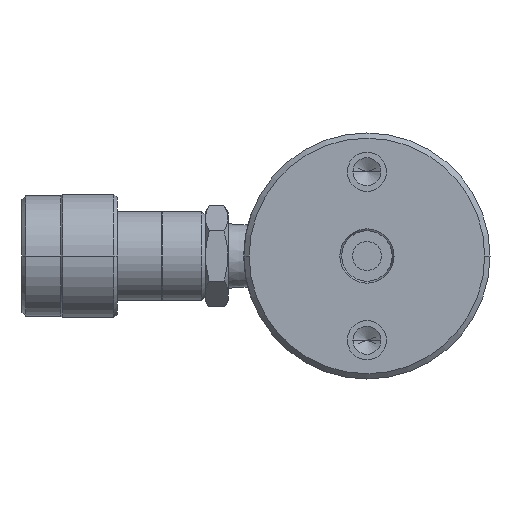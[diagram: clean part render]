
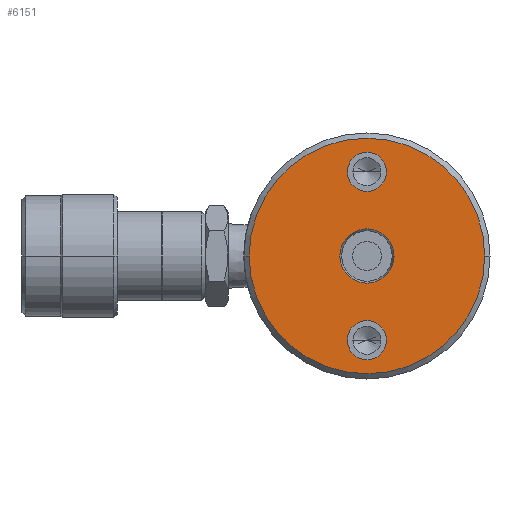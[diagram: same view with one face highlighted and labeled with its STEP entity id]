
A CAD part, front view. The second image highlights one B-rep face of the part: STEP entity #6151.
In plain terms, the highlighted planar face has unit normal (0, -1, 0).
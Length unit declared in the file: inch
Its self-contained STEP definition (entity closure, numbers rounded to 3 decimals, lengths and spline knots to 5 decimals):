
#338=CARTESIAN_POINT('',(0.,0.,0.));
#339=DIRECTION('',(0.,1.,0.));
#340=DIRECTION('',(-1.,0.,0.));
#341=AXIS2_PLACEMENT_3D('',#338,#339,#340);
#351=CARTESIAN_POINT('',(0.,0.,0.));
#352=DIRECTION('',(0.,-1.,0.));
#353=DIRECTION('',(-1.,0.,0.));
#354=AXIS2_PLACEMENT_3D('',#351,#352,#353);
#356=CARTESIAN_POINT('',(0.,0.,0.));
#357=DIRECTION('',(0.,-1.,0.));
#358=DIRECTION('',(-1.,0.,0.));
#359=AXIS2_PLACEMENT_3D('',#356,#357,#358);
#361=CARTESIAN_POINT('',(0.,0.,0.));
#362=DIRECTION('',(0.,-1.,0.));
#363=DIRECTION('',(1.,0.,0.));
#364=AXIS2_PLACEMENT_3D('',#361,#362,#363);
#366=CARTESIAN_POINT('',(0.,0.,-0.93898));
#367=DIRECTION('',(0.,-1.,0.));
#368=DIRECTION('',(-1.,0.,0.));
#369=AXIS2_PLACEMENT_3D('',#366,#367,#368);
#371=CARTESIAN_POINT('',(0.,0.,-0.93898));
#372=DIRECTION('',(0.,-1.,0.));
#373=DIRECTION('',(1.,0.,0.));
#374=AXIS2_PLACEMENT_3D('',#371,#372,#373);
#376=CARTESIAN_POINT('',(0.,0.,0.93898));
#377=DIRECTION('',(0.,-1.,0.));
#378=DIRECTION('',(1.,0.,0.));
#379=AXIS2_PLACEMENT_3D('',#376,#377,#378);
#381=CARTESIAN_POINT('',(0.,0.,0.93898));
#382=DIRECTION('',(0.,-1.,0.));
#383=DIRECTION('',(-1.,0.,0.));
#384=AXIS2_PLACEMENT_3D('',#381,#382,#383);
#5132=CARTESIAN_POINT('',(-1.31299,0.,0.));
#5133=CARTESIAN_POINT('',(1.31299,0.,0.));
#5134=VERTEX_POINT('',#5132);
#5135=VERTEX_POINT('',#5133);
#5140=CARTESIAN_POINT('',(-0.3024,0.,0.));
#5141=VERTEX_POINT('',#5140);
#5142=CARTESIAN_POINT('',(0.3024,0.,0.));
#5143=VERTEX_POINT('',#5142);
#5194=CARTESIAN_POINT('',(-0.2185,0.,-0.93898));
#5195=CARTESIAN_POINT('',(0.2185,0.,-0.93898));
#5196=VERTEX_POINT('',#5194);
#5197=VERTEX_POINT('',#5195);
#5212=CARTESIAN_POINT('',(0.2185,0.,0.93898));
#5213=CARTESIAN_POINT('',(-0.2185,0.,0.93898));
#5214=VERTEX_POINT('',#5212);
#5215=VERTEX_POINT('',#5213);
#6124=CARTESIAN_POINT('',(0.,0.,0.));
#6125=DIRECTION('',(0.,1.,0.));
#6126=DIRECTION('',(1.,0.,0.));
#6127=AXIS2_PLACEMENT_3D('',#6124,#6125,#6126);
#6128=PLANE('',#6127);
#6130=ORIENTED_EDGE('',*,*,#6129,.F.);
#6132=ORIENTED_EDGE('',*,*,#6131,.F.);
#6133=EDGE_LOOP('',(#6130,#6132));
#6134=FACE_OUTER_BOUND('',#6133,.F.);
#6135=ORIENTED_EDGE('',*,*,#6103,.F.);
#6136=ORIENTED_EDGE('',*,*,#6119,.T.);
#6137=EDGE_LOOP('',(#6135,#6136));
#6138=FACE_BOUND('',#6137,.F.);
#6140=ORIENTED_EDGE('',*,*,#6139,.T.);
#6142=ORIENTED_EDGE('',*,*,#6141,.T.);
#6143=EDGE_LOOP('',(#6140,#6142));
#6144=FACE_BOUND('',#6143,.F.);
#6146=ORIENTED_EDGE('',*,*,#6145,.T.);
#6148=ORIENTED_EDGE('',*,*,#6147,.T.);
#6149=EDGE_LOOP('',(#6146,#6148));
#6150=FACE_BOUND('',#6149,.F.);
#6151=ADVANCED_FACE('',(#6134,#6138,#6144,#6150),#6128,.F.);
#342=CIRCLE('',#341,0.3024);
#355=CIRCLE('',#354,0.3024);
#360=CIRCLE('',#359,1.31299);
#365=CIRCLE('',#364,1.31299);
#370=CIRCLE('',#369,0.2185);
#375=CIRCLE('',#374,0.2185);
#380=CIRCLE('',#379,0.2185);
#385=CIRCLE('',#384,0.2185);
#6103=EDGE_CURVE('',#5141,#5143,#342,.T.);
#6119=EDGE_CURVE('',#5141,#5143,#355,.T.);
#6129=EDGE_CURVE('',#5134,#5135,#360,.T.);
#6131=EDGE_CURVE('',#5135,#5134,#365,.T.);
#6139=EDGE_CURVE('',#5196,#5197,#370,.T.);
#6141=EDGE_CURVE('',#5197,#5196,#375,.T.);
#6145=EDGE_CURVE('',#5214,#5215,#380,.T.);
#6147=EDGE_CURVE('',#5215,#5214,#385,.T.);
